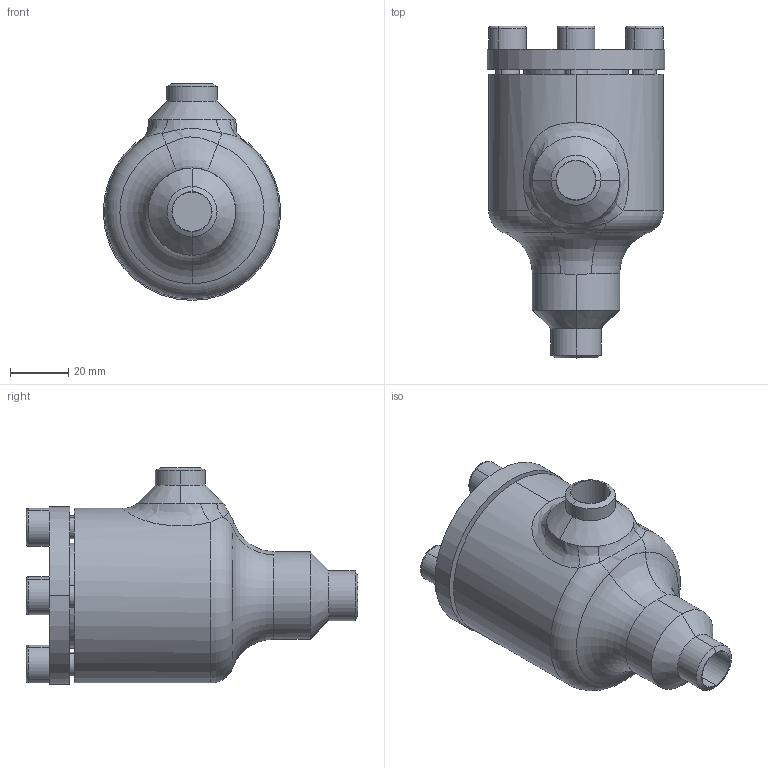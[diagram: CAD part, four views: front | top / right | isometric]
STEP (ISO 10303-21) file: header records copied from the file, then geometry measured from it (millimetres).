
FILE_DESCRIPTION (( 'STEP AP214' ), '1' );
FILE_NAME ('SS52400D08-DN010_R1_PS40.STEP', '2006-05-02T05:50:24', ( 'Herr Grams' ), ( 'AWP GmbH' ), 'SwSTEP 2.0', 'SolidWorks 2002296', '' );
FILE_SCHEMA (( 'AUTOMOTIVE_DESIGN' ));
Length unit declared in the file: millimetre
Products named in the file (5): SS52400D08-DN010_R1_PS40; Gehäuse16400-DN010_Standard; SS52300K10_Deck+Schr-DN10-20_Standard; Zylinderschraube-DIN912_M 8x 16; Deckel52300K10-DN10-20_Standard
Assembly tree (7 placements, depth 3):
  SS52400D08-DN010_R1_PS40
    SS52300K10_Deck+Schr-DN10-20_Standard
      Zylinderschraube-DIN912_M 8x 16  x4
      Deckel52300K10-DN10-20_Standard
    Gehäuse16400-DN010_Standard
Bounding box: 61 x 114 x 74.5 mm (x, y, z)
Volume: 201116.1 mm3; surface area: 34755.4 mm2
Topology: 6 solids, 6 shells, 130 faces, 279 edges, 175 vertices
Faces by surface type: plane 51, cylinder 46, cone 16, torus 11, bspline 6
Entity records: 12039 total; most frequent: CARTESIAN_POINT 9837, DIRECTION 414, ORIENTED_EDGE 330, AXIS2_PLACEMENT_3D 176, EDGE_CURVE 165, VERTEX_POINT 103, CIRCLE 95, EDGE_LOOP 92
